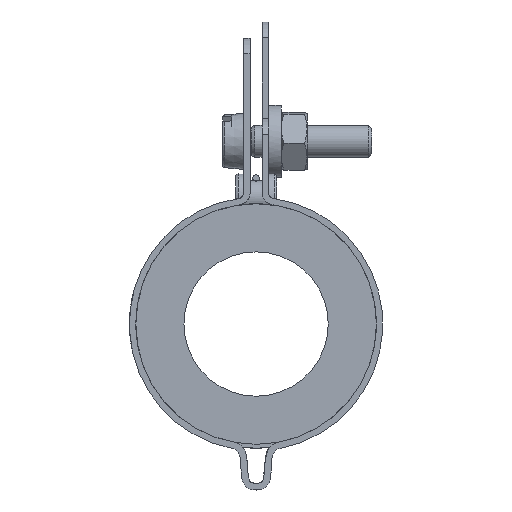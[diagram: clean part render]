
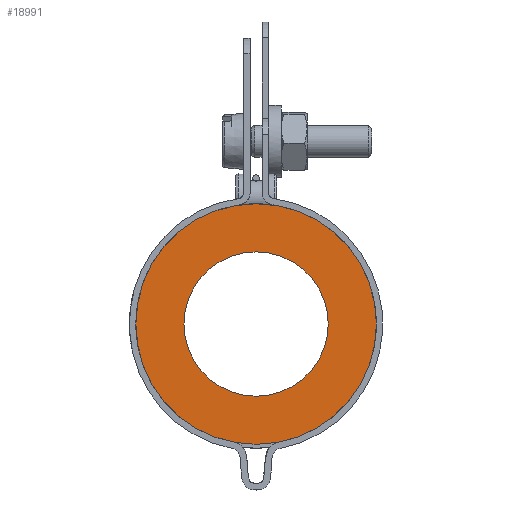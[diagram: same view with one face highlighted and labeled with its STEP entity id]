
A CAD part, front view. The second image highlights one B-rep face of the part: STEP entity #18991.
In plain terms, the highlighted planar face has unit normal (0, -1, 0).
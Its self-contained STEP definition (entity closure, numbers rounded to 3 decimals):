
#3716=FACE_BOUND($,#5576,.T.);
#3717=FACE_BOUND($,#5577,.T.);
#5576=EDGE_LOOP($,(#16112));
#5577=EDGE_LOOP($,(#16113));
#6463=CIRCLE($,#20526,15.);
#6568=CIRCLE($,#20832,9.);
#8144=VERTEX_POINT($,#31115);
#8335=VERTEX_POINT($,#32344);
#10710=EDGE_CURVE($,#8144,#8144,#6463,.T.);
#10975=EDGE_CURVE($,#8335,#8335,#6568,.T.);
#16112=ORIENTED_EDGE($,*,*,#10975,.T.);
#16113=ORIENTED_EDGE($,*,*,#10710,.T.);
#17160=PLANE($,#20834);
#18991=ADVANCED_FACE($,(#3716,#3717),#17160,.T.);
#20526=AXIS2_PLACEMENT_3D($,#31116,#25321,#25322);
#20832=AXIS2_PLACEMENT_3D($,#32345,#26011,#26012);
#20834=AXIS2_PLACEMENT_3D($,#32347,#26015,#26016);
#25321=DIRECTION('center_axis',(0.,-1.,0.));
#25322=DIRECTION('ref_axis',(1.,0.,0.));
#26011=DIRECTION('center_axis',(0.,1.,0.));
#26012=DIRECTION('ref_axis',(1.,0.,0.));
#26015=DIRECTION('center_axis',(0.,-1.,0.));
#26016=DIRECTION('ref_axis',(0.,0.,-1.));
#31115=CARTESIAN_POINT('',(6.645,46.577,19.693));
#31116=CARTESIAN_POINT('Origin',(21.645,46.577,19.693));
#32344=CARTESIAN_POINT('',(12.645,46.577,19.693));
#32345=CARTESIAN_POINT('Origin',(21.645,46.577,19.693));
#32347=CARTESIAN_POINT('Origin',(21.645,46.577,19.693));
